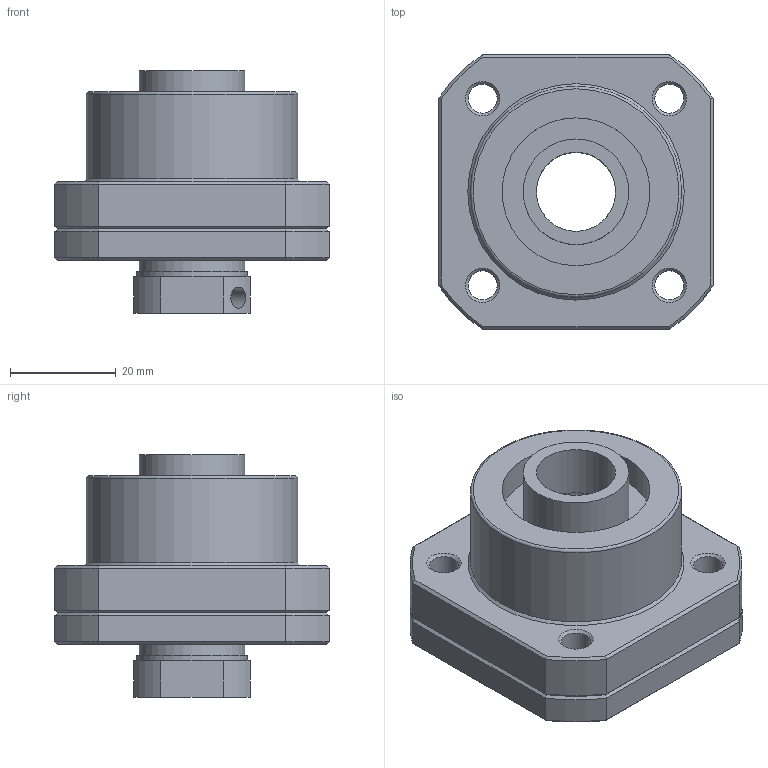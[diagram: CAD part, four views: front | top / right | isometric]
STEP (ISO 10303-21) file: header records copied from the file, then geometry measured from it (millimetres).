
FILE_DESCRIPTION(/* description */ (''),/* implementation_level */ '2;1');
FILE_NAME(/* name */ 'FK15.stp',/* time_stamp */ '2019-07-30T19:54:38+08:00',/* author */ (''),/* organization */ (''),/* preprocessor_version */ 'ST-DEVELOPER v14',/* originating_system */ 'SIEMENS PLM Software NX 8.0',/* authorisation */ '');
FILE_SCHEMA (('AUTOMOTIVE_DESIGN { 1 0 10303 214 3 1 1 1 }'));
Length unit declared in the file: millimetre
Products named in the file (6): M15; GT-20-15-10; 7002; FK15-LID; FK15-A; FK15
Assembly tree (7 placements, depth 2):
  FK15
    FK15-A
    FK15-LID
    7002  x2
    GT-20-15-10  x2
    M15
Bounding box: 52 x 52 x 46 mm (x, y, z)
Volume: 48580.4 mm3; surface area: 26780.1 mm2
Topology: 7 solids, 7 shells, 139 faces, 305 edges, 193 vertices
Faces by surface type: plane 55, cylinder 50, cone 31, torus 3
Full cylindrical faces by diameter (mm): 4 x6, 4.5 x4, 5.5 x4, 8 x4, 9.5 x4, 15 x5, 20 x2, 21 x1, 28 x2, 30 x1, 32 x4, 40 x1
Entity records: 4044 total; most frequent: CARTESIAN_POINT 851, DIRECTION 586, ORIENTED_EDGE 444, AXIS2_PLACEMENT_3D 261, EDGE_LOOP 234, EDGE_CURVE 222, FACE_BOUND 176, VERTEX_POINT 166
